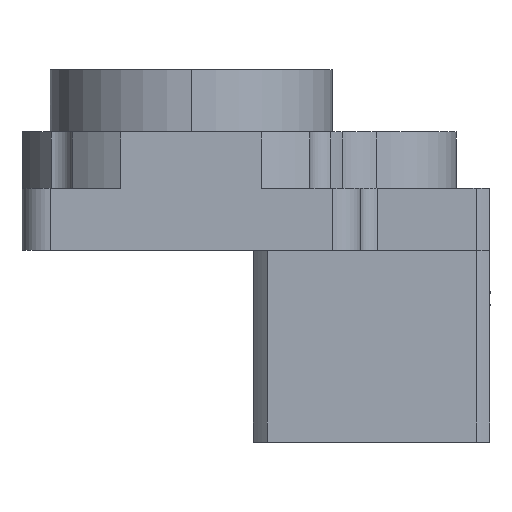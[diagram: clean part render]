
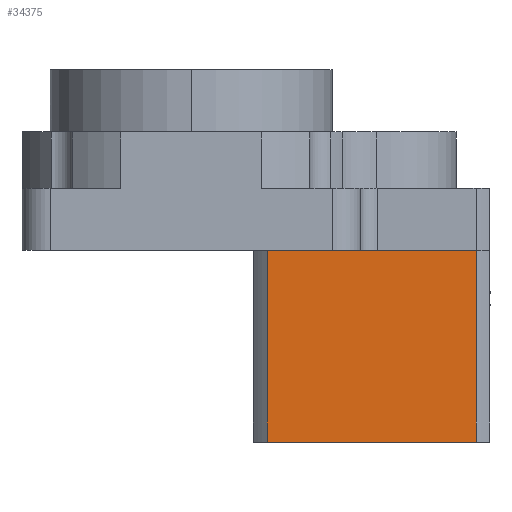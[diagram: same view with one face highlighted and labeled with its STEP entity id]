
A CAD part, left-side view. The second image highlights one B-rep face of the part: STEP entity #34375.
In plain terms, the highlighted planar face has unit normal (-1, 0, 0).
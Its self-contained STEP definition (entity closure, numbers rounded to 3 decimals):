
#102 = VERTEX_POINT ( 'NONE', #31900 ) ;
#1060 = ORIENTED_EDGE ( 'NONE', *, *, #27225, .T. ) ;
#1789 = AXIS2_PLACEMENT_3D ( 'NONE', #2839, #24437, #5950 ) ;
#2644 = ORIENTED_EDGE ( 'NONE', *, *, #27864, .T. ) ;
#2648 = VERTEX_POINT ( 'NONE', #14821 ) ;
#2839 = CARTESIAN_POINT ( 'NONE',  ( -21., -53., 0. ) ) ;
#3743 = CARTESIAN_POINT ( 'NONE',  ( -21., -50.52, -2.145 ) ) ;
#5950 = DIRECTION ( 'NONE',  ( 0., -1., 0. ) ) ;
#7320 = LINE ( 'NONE', #3743, #11200 ) ;
#8156 = CARTESIAN_POINT ( 'NONE',  ( -21., -13.48, 0. ) ) ;
#8336 = CARTESIAN_POINT ( 'NONE',  ( -21., -50.52, 0. ) ) ;
#9268 = LINE ( 'NONE', #22696, #27591 ) ;
#10826 = LINE ( 'NONE', #11729, #26266 ) ;
#11200 = VECTOR ( 'NONE', #25353, 1000. ) ;
#11729 = CARTESIAN_POINT ( 'NONE',  ( -21., -53., -34. ) ) ;
#14821 = CARTESIAN_POINT ( 'NONE',  ( -21., -13.48, -34. ) ) ;
#16080 = EDGE_CURVE ( 'NONE', #22559, #25256, #9268, .T. ) ;
#16490 = DIRECTION ( 'NONE',  ( 0., -1., 0. ) ) ;
#19550 = VECTOR ( 'NONE', #29815, 1000. ) ;
#21193 = PLANE ( 'NONE',  #1789 ) ;
#22559 = VERTEX_POINT ( 'NONE', #35694 ) ;
#22696 = CARTESIAN_POINT ( 'NONE',  ( -21., -60., 0. ) ) ;
#24437 = DIRECTION ( 'NONE',  ( -1., 0., 0. ) ) ;
#25256 = VERTEX_POINT ( 'NONE', #8336 ) ;
#25353 = DIRECTION ( 'NONE',  ( 0., 0., -1. ) ) ;
#26266 = VECTOR ( 'NONE', #39514, 1000. ) ;
#26361 = FACE_OUTER_BOUND ( 'NONE', #35394, .T. ) ;
#27225 = EDGE_CURVE ( 'NONE', #22559, #2648, #35963, .T. ) ;
#27591 = VECTOR ( 'NONE', #16490, 1000. ) ;
#27864 = EDGE_CURVE ( 'NONE', #2648, #102, #10826, .T. ) ;
#27987 = ORIENTED_EDGE ( 'NONE', *, *, #16080, .F. ) ;
#29815 = DIRECTION ( 'NONE',  ( 0., 0., -1. ) ) ;
#31900 = CARTESIAN_POINT ( 'NONE',  ( -21., -50.52, -34. ) ) ;
#32589 = ORIENTED_EDGE ( 'NONE', *, *, #39705, .F. ) ;
#34375 = ADVANCED_FACE ( 'NONE', ( #26361 ), #21193, .T. ) ;
#35394 = EDGE_LOOP ( 'NONE', ( #2644, #32589, #27987, #1060 ) ) ;
#35694 = CARTESIAN_POINT ( 'NONE',  ( -21., -13.48, 0. ) ) ;
#35963 = LINE ( 'NONE', #8156, #19550 ) ;
#39514 = DIRECTION ( 'NONE',  ( 0., -1., 0. ) ) ;
#39705 = EDGE_CURVE ( 'NONE', #25256, #102, #7320, .T. ) ;
